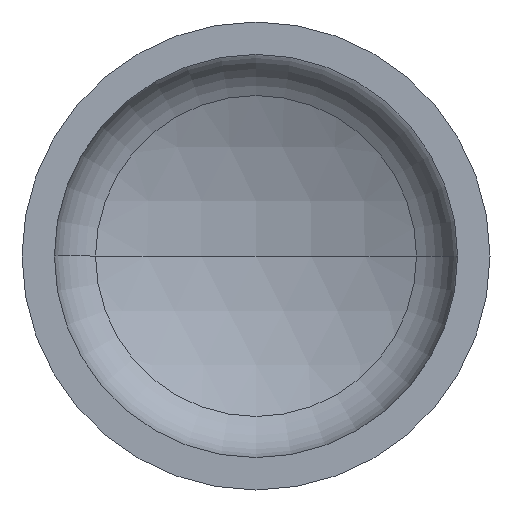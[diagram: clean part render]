
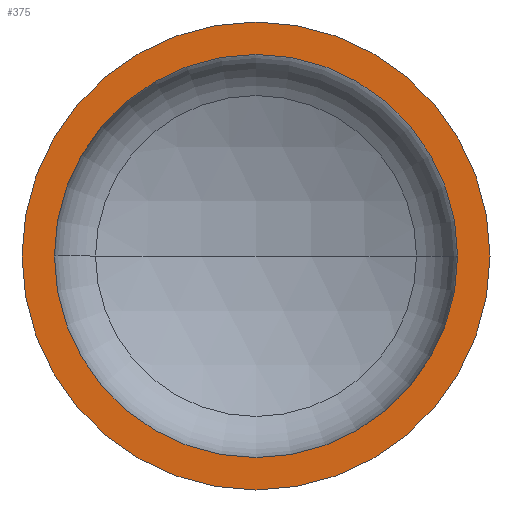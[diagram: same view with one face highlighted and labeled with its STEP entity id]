
A CAD part, front view. The second image highlights one B-rep face of the part: STEP entity #375.
In plain terms, the highlighted planar face has unit normal (0, -1, 0).
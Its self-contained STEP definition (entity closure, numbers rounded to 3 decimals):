
#9 = VERTEX_POINT ( 'NONE', #250 ) ;
#23 = AXIS2_PLACEMENT_3D ( 'NONE', #55, #59, #267 ) ;
#30 = EDGE_LOOP ( 'NONE', ( #74, #297 ) ) ;
#40 = VERTEX_POINT ( 'NONE', #358 ) ;
#43 = ORIENTED_EDGE ( 'NONE', *, *, #350, .F. ) ;
#45 = CARTESIAN_POINT ( 'NONE',  ( -650., 0., 0. ) ) ;
#55 = CARTESIAN_POINT ( 'NONE',  ( 0., 0., 0. ) ) ;
#59 = DIRECTION ( 'NONE',  ( 0., -1., 0. ) ) ;
#63 = VERTEX_POINT ( 'NONE', #242 ) ;
#74 = ORIENTED_EDGE ( 'NONE', *, *, #101, .T. ) ;
#79 = AXIS2_PLACEMENT_3D ( 'NONE', #363, #309, #303 ) ;
#80 = AXIS2_PLACEMENT_3D ( 'NONE', #342, #339, #338 ) ;
#82 = VERTEX_POINT ( 'NONE', #231 ) ;
#83 = EDGE_LOOP ( 'NONE', ( #368, #43 ) ) ;
#90 = AXIS2_PLACEMENT_3D ( 'NONE', #327, #323, #322 ) ;
#101 = EDGE_CURVE ( 'NONE', #40, #82, #349, .T. ) ;
#107 = EDGE_CURVE ( 'NONE', #82, #40, #397, .T. ) ;
#109 = DIRECTION ( 'NONE',  ( 0., 1., 0. ) ) ;
#112 = DIRECTION ( 'NONE',  ( -1., 0., 0. ) ) ;
#115 = EDGE_CURVE ( 'NONE', #63, #9, #281, .T. ) ;
#145 = AXIS2_PLACEMENT_3D ( 'NONE', #45, #109, #112 ) ;
#231 = CARTESIAN_POINT ( 'NONE',  ( -650., 0., 0. ) ) ;
#232 = FACE_OUTER_BOUND ( 'NONE', #30, .T. ) ;
#242 = CARTESIAN_POINT ( 'NONE',  ( 560., 0., 0. ) ) ;
#247 = CIRCLE ( 'NONE', #23, 560. ) ;
#250 = CARTESIAN_POINT ( 'NONE',  ( -560., 0., 0. ) ) ;
#267 = DIRECTION ( 'NONE',  ( 1., 0., 0. ) ) ;
#281 = CIRCLE ( 'NONE', #79, 560. ) ;
#290 = FACE_BOUND ( 'NONE', #83, .T. ) ;
#297 = ORIENTED_EDGE ( 'NONE', *, *, #107, .T. ) ;
#303 = DIRECTION ( 'NONE',  ( 1., 0., 0. ) ) ;
#309 = DIRECTION ( 'NONE',  ( 0., -1., 0. ) ) ;
#322 = DIRECTION ( 'NONE',  ( 1., 0., 0. ) ) ;
#323 = DIRECTION ( 'NONE',  ( 0., -1., 0. ) ) ;
#327 = CARTESIAN_POINT ( 'NONE',  ( 0., 0., 0. ) ) ;
#338 = DIRECTION ( 'NONE',  ( 1., 0., 0. ) ) ;
#339 = DIRECTION ( 'NONE',  ( 0., -1., 0. ) ) ;
#342 = CARTESIAN_POINT ( 'NONE',  ( 0., 0., 0. ) ) ;
#349 = CIRCLE ( 'NONE', #90, 650. ) ;
#350 = EDGE_CURVE ( 'NONE', #9, #63, #247, .T. ) ;
#358 = CARTESIAN_POINT ( 'NONE',  ( 650., 0., 0. ) ) ;
#363 = CARTESIAN_POINT ( 'NONE',  ( 0., 0., 0. ) ) ;
#368 = ORIENTED_EDGE ( 'NONE', *, *, #115, .F. ) ;
#375 = ADVANCED_FACE ( 'NONE', ( #290, #232 ), #403, .F. ) ;
#397 = CIRCLE ( 'NONE', #80, 650. ) ;
#403 = PLANE ( 'NONE',  #145 ) ;
